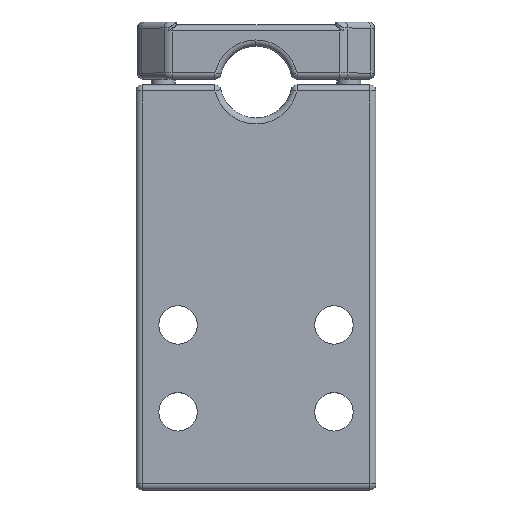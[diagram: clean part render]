
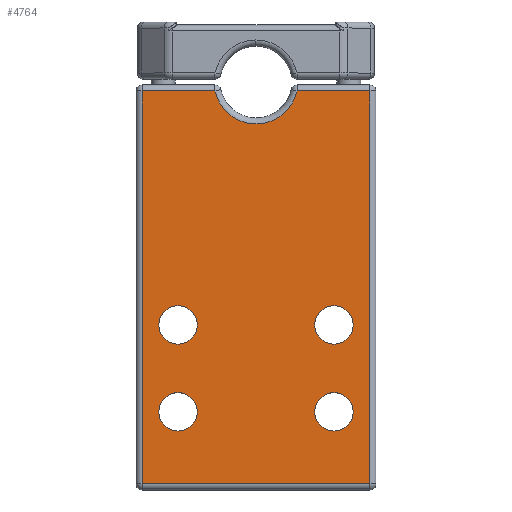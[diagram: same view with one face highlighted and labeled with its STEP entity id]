
A CAD part, top view. The second image highlights one B-rep face of the part: STEP entity #4764.
In plain terms, the highlighted planar face has unit normal (0, 0, 1).
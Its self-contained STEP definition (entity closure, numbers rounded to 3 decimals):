
#42 = CARTESIAN_POINT ( 'NONE',  ( 0., 66.5, 25. ) ) ;
#106 = FACE_BOUND ( 'NONE', #3840, .T. ) ;
#185 = EDGE_CURVE ( 'NONE', #3076, #4815, #6035, .T. ) ;
#195 = ORIENTED_EDGE ( 'NONE', *, *, #6158, .F. ) ;
#212 = EDGE_CURVE ( 'NONE', #3896, #1072, #3412, .T. ) ;
#248 = DIRECTION ( 'NONE',  ( -1., 0., 0. ) ) ;
#290 = VERTEX_POINT ( 'NONE', #2530 ) ;
#299 = DIRECTION ( 'NONE',  ( 0., 0., 1. ) ) ;
#317 = CARTESIAN_POINT ( 'NONE',  ( 33., 27.5, 25. ) ) ;
#379 = ORIENTED_EDGE ( 'NONE', *, *, #4431, .F. ) ;
#383 = EDGE_CURVE ( 'NONE', #3419, #4646, #1220, .T. ) ;
#493 = CIRCLE ( 'NONE', #5129, 3.2 ) ;
#581 = VERTEX_POINT ( 'NONE', #2740 ) ;
#616 = ORIENTED_EDGE ( 'NONE', *, *, #6042, .F. ) ;
#645 = AXIS2_PLACEMENT_3D ( 'NONE', #4729, #4366, #4686 ) ;
#708 = DIRECTION ( 'NONE',  ( -1., 0., 0. ) ) ;
#800 = CARTESIAN_POINT ( 'NONE',  ( 10.2, 27.5, 25. ) ) ;
#861 = EDGE_CURVE ( 'NONE', #4846, #3077, #2380, .T. ) ;
#908 = EDGE_LOOP ( 'NONE', ( #195, #3129 ) ) ;
#1072 = VERTEX_POINT ( 'NONE', #4274 ) ;
#1111 = LINE ( 'NONE', #1149, #3527 ) ;
#1130 = VECTOR ( 'NONE', #1272, 1000. ) ;
#1149 = CARTESIAN_POINT ( 'NONE',  ( 0., 1., 25. ) ) ;
#1184 = CARTESIAN_POINT ( 'NONE',  ( 0., 66.5, 25. ) ) ;
#1220 = CIRCLE ( 'NONE', #1423, 3.2 ) ;
#1272 = DIRECTION ( 'NONE',  ( -1., 0., 0. ) ) ;
#1276 = DIRECTION ( 'NONE',  ( 0., 0., 1. ) ) ;
#1279 = LINE ( 'NONE', #1184, #1130 ) ;
#1323 = CIRCLE ( 'NONE', #3722, 3.2 ) ;
#1402 = DIRECTION ( 'NONE',  ( 0., 0., 1. ) ) ;
#1423 = AXIS2_PLACEMENT_3D ( 'NONE', #3216, #3225, #3232 ) ;
#1424 = EDGE_LOOP ( 'NONE', ( #379, #5790 ) ) ;
#1508 = ORIENTED_EDGE ( 'NONE', *, *, #2534, .F. ) ;
#1511 = CARTESIAN_POINT ( 'NONE',  ( 3.8, 27.5, 25. ) ) ;
#1522 = EDGE_LOOP ( 'NONE', ( #4736, #5232, #5733, #6073, #6155, #5506 ) ) ;
#1559 = CIRCLE ( 'NONE', #2025, 3.2 ) ;
#1641 = CIRCLE ( 'NONE', #6045, 3.2 ) ;
#1660 = CARTESIAN_POINT ( 'NONE',  ( 13.163, 66.5, 25. ) ) ;
#1863 = VERTEX_POINT ( 'NONE', #5820 ) ;
#1901 = CARTESIAN_POINT ( 'NONE',  ( 0., 67.5, 25. ) ) ;
#1984 = ORIENTED_EDGE ( 'NONE', *, *, #185, .F. ) ;
#2025 = AXIS2_PLACEMENT_3D ( 'NONE', #5806, #2954, #6254 ) ;
#2104 = CARTESIAN_POINT ( 'NONE',  ( 33., 13., 25. ) ) ;
#2115 = DIRECTION ( 'NONE',  ( 0., 0., 1. ) ) ;
#2120 = DIRECTION ( 'NONE',  ( -1., 0., 0. ) ) ;
#2163 = CARTESIAN_POINT ( 'NONE',  ( 1., 67.5, 25. ) ) ;
#2198 = CARTESIAN_POINT ( 'NONE',  ( 7., 13., 25. ) ) ;
#2226 = CARTESIAN_POINT ( 'NONE',  ( 39., 67.5, 25. ) ) ;
#2229 = VECTOR ( 'NONE', #708, 1000. ) ;
#2245 = DIRECTION ( 'NONE',  ( 0., -1., 0. ) ) ;
#2278 = CARTESIAN_POINT ( 'NONE',  ( 1., 66.5, 25. ) ) ;
#2325 = EDGE_CURVE ( 'NONE', #1072, #1863, #1111, .T. ) ;
#2380 = LINE ( 'NONE', #42, #2229 ) ;
#2409 = DIRECTION ( 'NONE',  ( 0., 0., -1. ) ) ;
#2469 = CARTESIAN_POINT ( 'NONE',  ( 39., 66.5, 25. ) ) ;
#2530 = CARTESIAN_POINT ( 'NONE',  ( 36.2, 27.5, 25. ) ) ;
#2534 = EDGE_CURVE ( 'NONE', #4646, #3419, #493, .T. ) ;
#2562 = EDGE_CURVE ( 'NONE', #3077, #6367, #2576, .T. ) ;
#2576 = CIRCLE ( 'NONE', #645, 7. ) ;
#2677 = VERTEX_POINT ( 'NONE', #5082 ) ;
#2721 = DIRECTION ( 'NONE',  ( -1., 0., 0. ) ) ;
#2740 = CARTESIAN_POINT ( 'NONE',  ( 29.8, 27.5, 25. ) ) ;
#2871 = FACE_OUTER_BOUND ( 'NONE', #1522, .T. ) ;
#2954 = DIRECTION ( 'NONE',  ( 0., 0., 1. ) ) ;
#3076 = VERTEX_POINT ( 'NONE', #6384 ) ;
#3077 = VERTEX_POINT ( 'NONE', #6360 ) ;
#3129 = ORIENTED_EDGE ( 'NONE', *, *, #5920, .F. ) ;
#3216 = CARTESIAN_POINT ( 'NONE',  ( 7., 27.5, 25. ) ) ;
#3225 = DIRECTION ( 'NONE',  ( 0., 0., 1. ) ) ;
#3232 = DIRECTION ( 'NONE',  ( -1., 0., 0. ) ) ;
#3254 = VECTOR ( 'NONE', #2245, 1000. ) ;
#3412 = LINE ( 'NONE', #2163, #3254 ) ;
#3419 = VERTEX_POINT ( 'NONE', #1511 ) ;
#3433 = CIRCLE ( 'NONE', #5141, 3.2 ) ;
#3514 = CARTESIAN_POINT ( 'NONE',  ( 29.8, 13., 25. ) ) ;
#3527 = VECTOR ( 'NONE', #5568, 1000. ) ;
#3605 = VERTEX_POINT ( 'NONE', #5924 ) ;
#3628 = AXIS2_PLACEMENT_3D ( 'NONE', #2104, #2115, #2120 ) ;
#3722 = AXIS2_PLACEMENT_3D ( 'NONE', #2198, #5609, #2721 ) ;
#3746 = DIRECTION ( 'NONE',  ( 0., 0., 1. ) ) ;
#3770 = DIRECTION ( 'NONE',  ( -1., 0., 0. ) ) ;
#3808 = EDGE_CURVE ( 'NONE', #6367, #3896, #1279, .T. ) ;
#3818 = LINE ( 'NONE', #2226, #5204 ) ;
#3840 = EDGE_LOOP ( 'NONE', ( #5919, #1508 ) ) ;
#3896 = VERTEX_POINT ( 'NONE', #2278 ) ;
#4037 = FACE_BOUND ( 'NONE', #5548, .T. ) ;
#4112 = AXIS2_PLACEMENT_3D ( 'NONE', #1901, #2409, #5803 ) ;
#4129 = DIRECTION ( 'NONE',  ( 0., 1., 0. ) ) ;
#4188 = FACE_BOUND ( 'NONE', #1424, .T. ) ;
#4274 = CARTESIAN_POINT ( 'NONE',  ( 1., 1., 25. ) ) ;
#4313 = CARTESIAN_POINT ( 'NONE',  ( 33., 13., 25. ) ) ;
#4366 = DIRECTION ( 'NONE',  ( 0., 0., -1. ) ) ;
#4423 = CARTESIAN_POINT ( 'NONE',  ( 33., 27.5, 25. ) ) ;
#4431 = EDGE_CURVE ( 'NONE', #581, #290, #6066, .T. ) ;
#4646 = VERTEX_POINT ( 'NONE', #800 ) ;
#4686 = DIRECTION ( 'NONE',  ( -1., 0., 0. ) ) ;
#4704 = CARTESIAN_POINT ( 'NONE',  ( 7., 27.5, 25. ) ) ;
#4729 = CARTESIAN_POINT ( 'NONE',  ( 20., 68., 25. ) ) ;
#4736 = ORIENTED_EDGE ( 'NONE', *, *, #212, .T. ) ;
#4764 = ADVANCED_FACE ( 'NONE', ( #2871, #106, #4188, #5291, #4037 ), #4891, .F. ) ;
#4796 = DIRECTION ( 'NONE',  ( -1., 0., 0. ) ) ;
#4815 = VERTEX_POINT ( 'NONE', #3514 ) ;
#4846 = VERTEX_POINT ( 'NONE', #2469 ) ;
#4891 = PLANE ( 'NONE',  #4112 ) ;
#4906 = DIRECTION ( 'NONE',  ( -1., 0., 0. ) ) ;
#5082 = CARTESIAN_POINT ( 'NONE',  ( 3.8, 13., 25. ) ) ;
#5129 = AXIS2_PLACEMENT_3D ( 'NONE', #4704, #3746, #3770 ) ;
#5141 = AXIS2_PLACEMENT_3D ( 'NONE', #4313, #1276, #4796 ) ;
#5190 = EDGE_CURVE ( 'NONE', #290, #581, #1641, .T. ) ;
#5204 = VECTOR ( 'NONE', #4129, 1000. ) ;
#5232 = ORIENTED_EDGE ( 'NONE', *, *, #2325, .T. ) ;
#5291 = FACE_BOUND ( 'NONE', #908, .T. ) ;
#5440 = EDGE_CURVE ( 'NONE', #1863, #4846, #3818, .T. ) ;
#5506 = ORIENTED_EDGE ( 'NONE', *, *, #3808, .T. ) ;
#5548 = EDGE_LOOP ( 'NONE', ( #616, #1984 ) ) ;
#5568 = DIRECTION ( 'NONE',  ( 1., 0., 0. ) ) ;
#5609 = DIRECTION ( 'NONE',  ( 0., 0., 1. ) ) ;
#5733 = ORIENTED_EDGE ( 'NONE', *, *, #5440, .T. ) ;
#5790 = ORIENTED_EDGE ( 'NONE', *, *, #5190, .F. ) ;
#5803 = DIRECTION ( 'NONE',  ( -1., 0., 0. ) ) ;
#5806 = CARTESIAN_POINT ( 'NONE',  ( 7., 13., 25. ) ) ;
#5820 = CARTESIAN_POINT ( 'NONE',  ( 39., 1., 25. ) ) ;
#5919 = ORIENTED_EDGE ( 'NONE', *, *, #383, .F. ) ;
#5920 = EDGE_CURVE ( 'NONE', #3605, #2677, #1323, .T. ) ;
#5924 = CARTESIAN_POINT ( 'NONE',  ( 10.2, 13., 25. ) ) ;
#6035 = CIRCLE ( 'NONE', #3628, 3.2 ) ;
#6042 = EDGE_CURVE ( 'NONE', #4815, #3076, #3433, .T. ) ;
#6045 = AXIS2_PLACEMENT_3D ( 'NONE', #4423, #1402, #4906 ) ;
#6066 = CIRCLE ( 'NONE', #6197, 3.2 ) ;
#6073 = ORIENTED_EDGE ( 'NONE', *, *, #861, .T. ) ;
#6155 = ORIENTED_EDGE ( 'NONE', *, *, #2562, .T. ) ;
#6158 = EDGE_CURVE ( 'NONE', #2677, #3605, #1559, .T. ) ;
#6197 = AXIS2_PLACEMENT_3D ( 'NONE', #317, #299, #248 ) ;
#6254 = DIRECTION ( 'NONE',  ( -1., 0., 0. ) ) ;
#6360 = CARTESIAN_POINT ( 'NONE',  ( 26.837, 66.5, 25. ) ) ;
#6367 = VERTEX_POINT ( 'NONE', #1660 ) ;
#6384 = CARTESIAN_POINT ( 'NONE',  ( 36.2, 13., 25. ) ) ;
